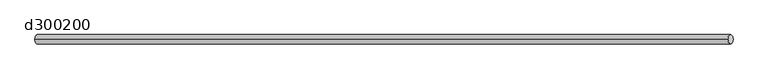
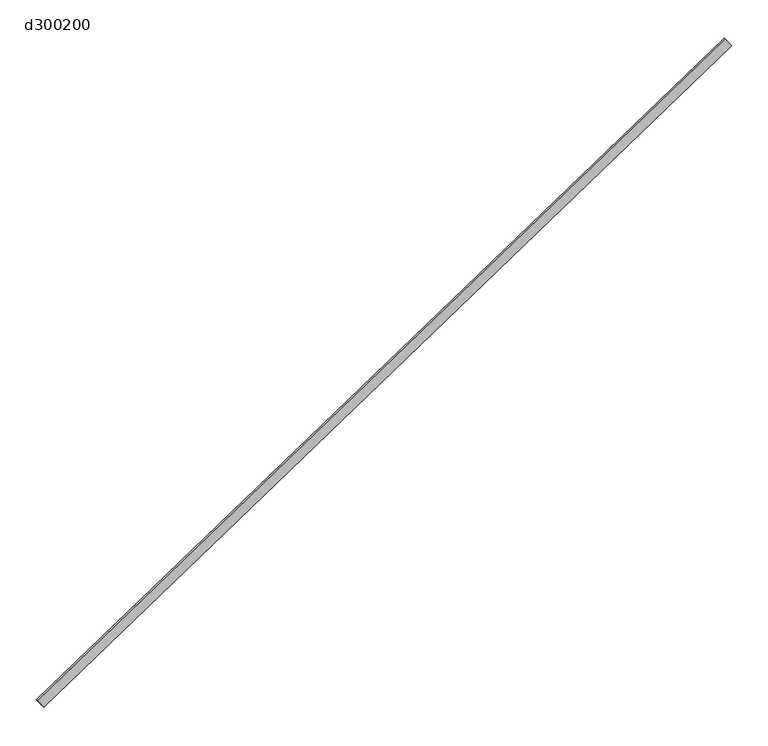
"""IFC4 building model written with IfcOpenShell, lengths in millimetres: proxy geometry, MILLS_ACRAM_DIAGONALE : d300200."""

from ifc_helpers import new_model, si_unit, point, frame, frame_2d, origin, place, context, project, spatial, circle_curve, trimmed, segment, composite_curve, outline, extrude, source, transform, mapped, element, save


def d300200_67c6fa93(model_context):
    return source(origin(), model_context, "Body", "SweptSolid", [
        extrude(outline(composite_curve([segment(trimmed(circle_curve(frame_2d((82.5034023, 0.0)), 20.0), [point((82.5034023, 20.0))], [point((82.5034023, -20.0))], False, "CARTESIAN"), True, "CONTINUOUS"), segment(trimmed(circle_curve(frame_2d((82.5034023, 0.0)), 20.0), [point((82.5034023, -20.0))], [point((82.5034023, 20.0))], False, "CARTESIAN"), True, "CONTINUOUS")], self_intersect=False)), frame((-645.75, 0.0, 0.0), z_axis=(0.8319870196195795, 0.0, 0.5547950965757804), x_axis=(0.0, -1.0, 0.0)), (0.0, 0.0, 1.0), 3605.8254868),
    ])


if __name__ == "__main__":
    model = new_model("IFC4")
    model_context = context("Model", 3, world=origin())
    ifc_project = project(units=[si_unit("LENGTHUNIT", "METRE", prefix="MILLI")], contexts=[model_context])
    site = spatial("IfcSite", under=ifc_project)
    building = spatial("IfcBuilding", under=site)
    placement = place(None, origin())
    d300200_shape = d300200_67c6fa93(model_context)
    element("IfcBuildingElementProxy", 1, Name="MILLS_ACRAM_DIAGONALE : d300200", ObjectType="MILLS_ACRAM_DIAGONALE : d300200", at=placement, inside=building, context=model_context, shape_type="MappedRepresentation", body=[
        mapped(d300200_shape, transform((0.0, 0.0, 0.0), x_axis=(1.0, 0.0, 0.0), y_axis=(0.0, 1.0, 0.0), z_axis=(0.0, 0.0, 1.0))),
    ])
    save(model, "model.ifc")
